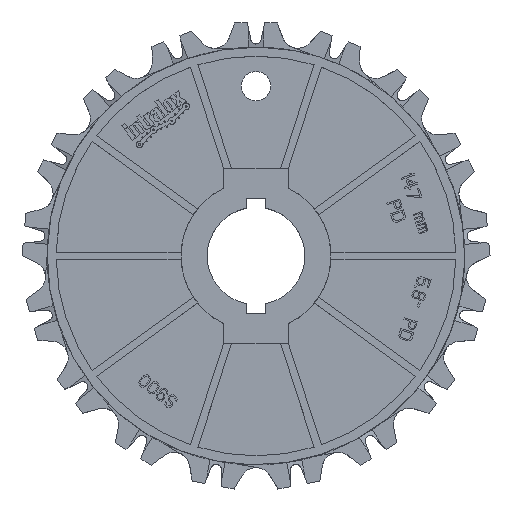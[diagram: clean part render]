
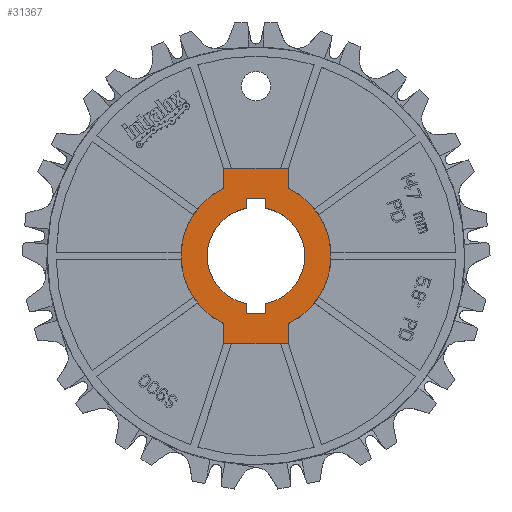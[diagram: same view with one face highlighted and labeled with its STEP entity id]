
A CAD part, top view. The second image highlights one B-rep face of the part: STEP entity #31367.
In plain terms, the highlighted planar face has unit normal (0, 0, 1).
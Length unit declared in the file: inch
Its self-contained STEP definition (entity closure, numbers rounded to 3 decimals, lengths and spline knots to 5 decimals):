
#10587=CARTESIAN_POINT('',(0.,0.,0.74));
#10588=DIRECTION('',(0.,0.,-1.));
#10589=DIRECTION('',(0.432,0.902,0.));
#10590=AXIS2_PLACEMENT_3D('',#10587,#10588,#10589);
#10592=DIRECTION('',(0.,-1.,0.));
#10593=VECTOR('',#10592,0.25704);
#10594=CARTESIAN_POINT('',(0.4145,-0.86646,0.74));
#10595=LINE('',#10594,#10593);
#10596=DIRECTION('',(-1.,0.,0.));
#10597=VECTOR('',#10596,0.829);
#10598=CARTESIAN_POINT('',(0.4145,-1.1235,0.74));
#10599=LINE('',#10598,#10597);
#10600=DIRECTION('',(0.,1.,0.));
#10601=VECTOR('',#10600,0.25704);
#10602=CARTESIAN_POINT('',(-0.4145,-1.1235,0.74));
#10603=LINE('',#10602,#10601);
#10604=CARTESIAN_POINT('',(0.,0.,0.74));
#10605=DIRECTION('',(0.,0.,-1.));
#10606=DIRECTION('',(-0.432,-0.902,0.));
#10607=AXIS2_PLACEMENT_3D('',#10604,#10605,#10606);
#10609=DIRECTION('',(0.,1.,0.));
#10610=VECTOR('',#10609,0.25704);
#10611=CARTESIAN_POINT('',(-0.4145,0.86646,0.74));
#10612=LINE('',#10611,#10610);
#10613=DIRECTION('',(1.,0.,0.));
#10614=VECTOR('',#10613,0.829);
#10615=CARTESIAN_POINT('',(-0.4145,1.1235,0.74));
#10616=LINE('',#10615,#10614);
#10617=DIRECTION('',(0.,-1.,0.));
#10618=VECTOR('',#10617,0.25704);
#10619=CARTESIAN_POINT('',(0.4145,1.1235,0.74));
#10620=LINE('',#10619,#10618);
#10621=DIRECTION('',(0.,-1.,0.));
#10622=VECTOR('',#10621,0.125);
#10623=CARTESIAN_POINT('',(-0.125,0.73737,0.74));
#10624=LINE('',#10623,#10622);
#10625=CARTESIAN_POINT('',(0.,0.,0.74));
#10626=DIRECTION('',(0.,0.,1.));
#10627=DIRECTION('',(-0.2,0.98,0.));
#10628=AXIS2_PLACEMENT_3D('',#10625,#10626,#10627);
#10630=DIRECTION('',(0.,-1.,0.));
#10631=VECTOR('',#10630,0.125);
#10632=CARTESIAN_POINT('',(-0.125,-0.61237,0.74));
#10633=LINE('',#10632,#10631);
#10634=DIRECTION('',(1.,0.,0.));
#10635=VECTOR('',#10634,0.25);
#10636=CARTESIAN_POINT('',(-0.125,-0.73737,0.74));
#10637=LINE('',#10636,#10635);
#10638=DIRECTION('',(0.,1.,0.));
#10639=VECTOR('',#10638,0.125);
#10640=CARTESIAN_POINT('',(0.125,-0.73737,0.74));
#10641=LINE('',#10640,#10639);
#10642=CARTESIAN_POINT('',(0.,0.,0.74));
#10643=DIRECTION('',(0.,0.,1.));
#10644=DIRECTION('',(0.2,-0.98,0.));
#10645=AXIS2_PLACEMENT_3D('',#10642,#10643,#10644);
#10647=DIRECTION('',(0.,1.,0.));
#10648=VECTOR('',#10647,0.125);
#10649=CARTESIAN_POINT('',(0.125,0.61237,0.74));
#10650=LINE('',#10649,#10648);
#10651=DIRECTION('',(-1.,0.,0.));
#10652=VECTOR('',#10651,0.25);
#10653=CARTESIAN_POINT('',(0.125,0.73737,0.74));
#10654=LINE('',#10653,#10652);
#15065=CARTESIAN_POINT('',(0.4145,0.86646,0.74));
#15066=CARTESIAN_POINT('',(0.4145,-0.86646,0.74));
#15067=VERTEX_POINT('',#15065);
#15068=VERTEX_POINT('',#15066);
#15069=CARTESIAN_POINT('',(0.4145,-1.1235,0.74));
#15070=VERTEX_POINT('',#15069);
#15071=CARTESIAN_POINT('',(-0.4145,-1.1235,0.74));
#15072=VERTEX_POINT('',#15071);
#15073=CARTESIAN_POINT('',(-0.4145,-0.86646,0.74));
#15074=VERTEX_POINT('',#15073);
#15075=CARTESIAN_POINT('',(-0.4145,0.86646,0.74));
#15076=VERTEX_POINT('',#15075);
#15077=CARTESIAN_POINT('',(-0.4145,1.1235,0.74));
#15078=VERTEX_POINT('',#15077);
#15079=CARTESIAN_POINT('',(0.4145,1.1235,0.74));
#15080=VERTEX_POINT('',#15079);
#18811=CARTESIAN_POINT('',(-0.125,0.73737,0.74));
#18812=CARTESIAN_POINT('',(-0.125,0.61237,0.74));
#18813=VERTEX_POINT('',#18811);
#18814=VERTEX_POINT('',#18812);
#18815=CARTESIAN_POINT('',(-0.125,-0.61237,0.74));
#18816=VERTEX_POINT('',#18815);
#18817=CARTESIAN_POINT('',(-0.125,-0.73737,0.74));
#18818=VERTEX_POINT('',#18817);
#18819=CARTESIAN_POINT('',(0.125,-0.73737,0.74));
#18820=VERTEX_POINT('',#18819);
#18821=CARTESIAN_POINT('',(0.125,-0.61237,0.74));
#18822=VERTEX_POINT('',#18821);
#18823=CARTESIAN_POINT('',(0.125,0.61237,0.74));
#18824=VERTEX_POINT('',#18823);
#18825=CARTESIAN_POINT('',(0.125,0.73737,0.74));
#18826=VERTEX_POINT('',#18825);
#31332=CARTESIAN_POINT('',(0.,0.,0.74));
#31333=DIRECTION('',(0.,0.,-1.));
#31334=DIRECTION('',(-1.,0.,0.));
#31335=AXIS2_PLACEMENT_3D('',#31332,#31333,#31334);
#31336=PLANE('',#31335);
#31337=ORIENTED_EDGE('',*,*,#24093,.T.);
#31339=ORIENTED_EDGE('',*,*,#31338,.T.);
#31341=ORIENTED_EDGE('',*,*,#31340,.T.);
#31342=ORIENTED_EDGE('',*,*,#30258,.T.);
#31343=ORIENTED_EDGE('',*,*,#30330,.T.);
#31344=ORIENTED_EDGE('',*,*,#30494,.T.);
#31345=ORIENTED_EDGE('',*,*,#30518,.T.);
#31347=ORIENTED_EDGE('',*,*,#31346,.T.);
#31348=EDGE_LOOP('',(#31337,#31339,#31341,#31342,#31343,#31344,#31345,#31347));
#31349=FACE_OUTER_BOUND('',#31348,.F.);
#31350=ORIENTED_EDGE('',*,*,#31322,.T.);
#31352=ORIENTED_EDGE('',*,*,#31351,.T.);
#31354=ORIENTED_EDGE('',*,*,#31353,.T.);
#31356=ORIENTED_EDGE('',*,*,#31355,.T.);
#31358=ORIENTED_EDGE('',*,*,#31357,.T.);
#31360=ORIENTED_EDGE('',*,*,#31359,.T.);
#31362=ORIENTED_EDGE('',*,*,#31361,.T.);
#31364=ORIENTED_EDGE('',*,*,#31363,.T.);
#31365=EDGE_LOOP('',(#31350,#31352,#31354,#31356,#31358,#31360,#31362,#31364));
#31366=FACE_BOUND('',#31365,.F.);
#31367=ADVANCED_FACE('',(#31349,#31366),#31336,.F.);
#10591=CIRCLE('',#10590,0.9605);
#10608=CIRCLE('',#10607,0.9605);
#10629=CIRCLE('',#10628,0.625);
#10646=CIRCLE('',#10645,0.625);
#24093=EDGE_CURVE('',#15067,#15068,#10591,.T.);
#30258=EDGE_CURVE('',#15072,#15074,#10603,.T.);
#30330=EDGE_CURVE('',#15074,#15076,#10608,.T.);
#30494=EDGE_CURVE('',#15076,#15078,#10612,.T.);
#30518=EDGE_CURVE('',#15078,#15080,#10616,.T.);
#31322=EDGE_CURVE('',#18813,#18814,#10624,.T.);
#31338=EDGE_CURVE('',#15068,#15070,#10595,.T.);
#31340=EDGE_CURVE('',#15070,#15072,#10599,.T.);
#31346=EDGE_CURVE('',#15080,#15067,#10620,.T.);
#31351=EDGE_CURVE('',#18814,#18816,#10629,.T.);
#31353=EDGE_CURVE('',#18816,#18818,#10633,.T.);
#31355=EDGE_CURVE('',#18818,#18820,#10637,.T.);
#31357=EDGE_CURVE('',#18820,#18822,#10641,.T.);
#31359=EDGE_CURVE('',#18822,#18824,#10646,.T.);
#31361=EDGE_CURVE('',#18824,#18826,#10650,.T.);
#31363=EDGE_CURVE('',#18826,#18813,#10654,.T.);
